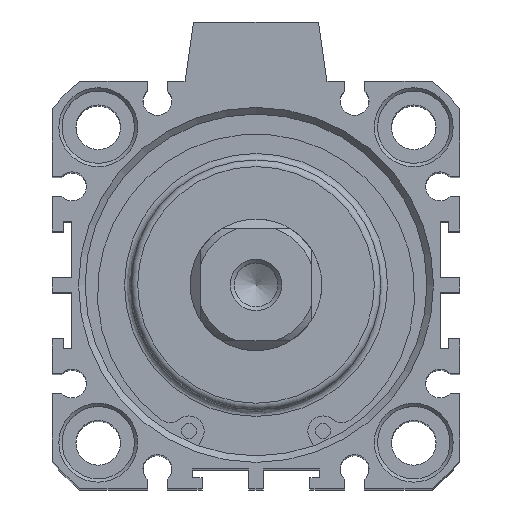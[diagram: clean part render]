
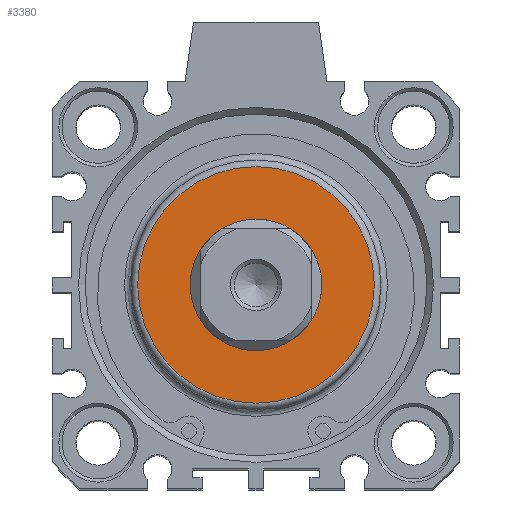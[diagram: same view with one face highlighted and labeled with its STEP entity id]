
A CAD part, top view. The second image highlights one B-rep face of the part: STEP entity #3380.
In plain terms, the highlighted planar face has unit normal (0, 0, 1).
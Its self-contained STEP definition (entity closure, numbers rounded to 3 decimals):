
#2900=CARTESIAN_POINT('',(-7.057,11.794,117.5));
#2901=VERTEX_POINT('',#2900);
#2902=CARTESIAN_POINT('',(-7.057,1.794,117.5));
#2903=DIRECTION('',(0.0,0.0,-1.0));
#2904=DIRECTION('',(0.0,1.0,0.0));
#2905=AXIS2_PLACEMENT_3D('',#2902,#2903,#2904);
#2906=CIRCLE('',#2905,10.);
#2907=EDGE_CURVE('',#2901,#2901,#2906,.T.);
#3354=CARTESIAN_POINT('',(-7.057,19.794,117.5));
#3355=VERTEX_POINT('',#3354);
#3356=CARTESIAN_POINT('',(-7.057,1.794,117.5));
#3357=DIRECTION('',(0.0,0.0,-1.0));
#3358=DIRECTION('',(0.0,-1.0,0.0));
#3359=AXIS2_PLACEMENT_3D('',#3356,#3357,#3358);
#3360=CIRCLE('',#3359,18.);
#3361=EDGE_CURVE('',#3355,#3355,#3360,.T.);
#3369=CARTESIAN_POINT('',(-7.057,11.294,117.5));
#3370=DIRECTION('',(0.0,0.0,1.0));
#3371=DIRECTION('',(1.0,0.0,0.0));
#3372=AXIS2_PLACEMENT_3D('',#3369,#3370,#3371);
#3373=PLANE('',#3372);
#3374=ORIENTED_EDGE('',*,*,#3361,.F.);
#3375=EDGE_LOOP('',(#3374));
#3376=FACE_OUTER_BOUND('',#3375,.T.);
#3377=ORIENTED_EDGE('',*,*,#2907,.T.);
#3378=EDGE_LOOP('',(#3377));
#3379=FACE_BOUND('',#3378,.T.);
#3380=ADVANCED_FACE('',(#3376,#3379),#3373,.T.);
